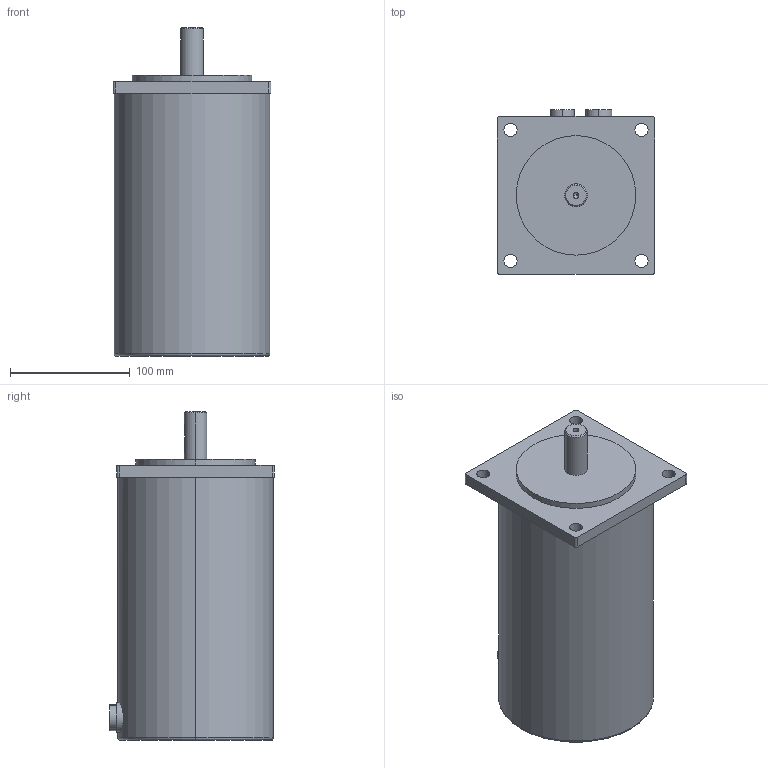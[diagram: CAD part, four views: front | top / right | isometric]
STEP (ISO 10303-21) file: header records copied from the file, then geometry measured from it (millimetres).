
FILE_DESCRIPTION (( 'STEP AP214' ), '1' );
FILE_NAME ('2S130Y-063R8.STEP', '2020-10-27T06:18:45', ( '' ), ( '' ), 'SwSTEP 2.0', 'SolidWorks 2020', '' );
FILE_SCHEMA (( 'AUTOMOTIVE_DESIGN' ));
Length unit declared in the file: millimetre
Products named in the file (1): 2S130Y-063R8
Bounding box: 132 x 138 x 275 mm (x, y, z)
Volume: 3147257.6 mm3; surface area: 135817 mm2
Topology: 1 solids, 1 shells, 53 faces, 123 edges, 79 vertices
Faces by surface type: cylinder 31, plane 16, cone 4, torus 2
Entity records: 1827 total; most frequent: CARTESIAN_POINT 507, DIRECTION 283, ORIENTED_EDGE 242, EDGE_CURVE 121, AXIS2_PLACEMENT_3D 115, VERTEX_POINT 79, EDGE_LOOP 70, CIRCLE 61
